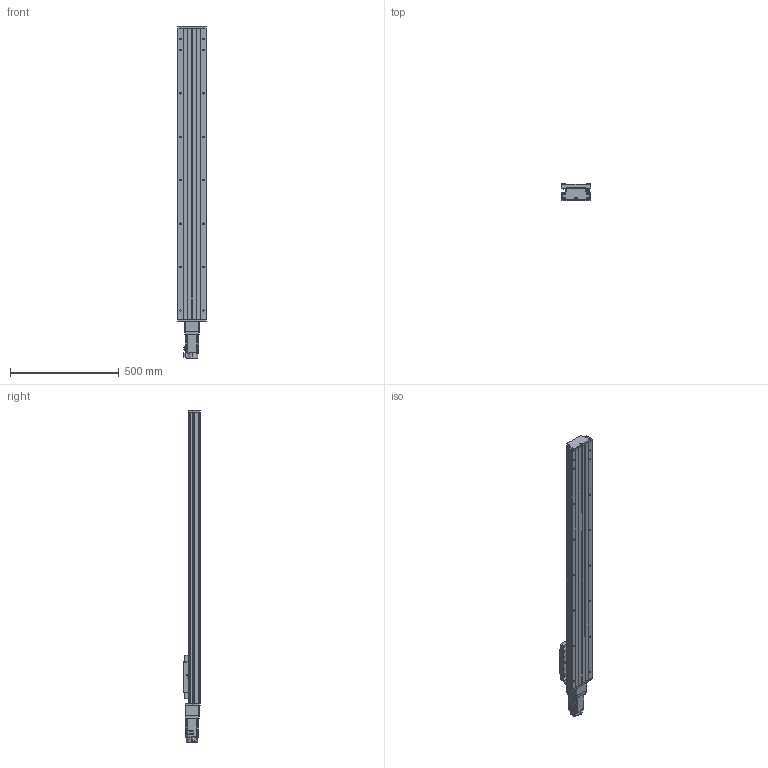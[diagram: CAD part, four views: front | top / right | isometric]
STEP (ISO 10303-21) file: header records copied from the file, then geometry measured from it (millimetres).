
FILE_DESCRIPTION (( 'STEP AP203' ), '1' );
FILE_NAME ('GTH14-1100-BC-M40-C4.step', '2023-06-30T08:32:12', ( '微软用户' ), ( '微软中国' ), 'SwSTEP 2.0', 'SolidWorks 2020', '' );
FILE_SCHEMA (( 'CONFIG_CONTROL_DESIGN' ));
Length unit declared in the file: millimetre
Products named in the file (20): GBT 70.2-M3¡Á5_M3¡Á6; す晦芛蹟隊 M3℅5; GTH14-001_1100; CTHA60-017; CTHA86-006-1_M40; GTH14-002_GTH14-002; EE_SX911P_R; CTHA86-013; GTH14-004; CTHA60-016; CTHA86-027-1; GTH14-005; GBT 70.1-M3℅5; HG-KN43J-S100; GB1155-6X6; GBT77-2000 M3×3; GBT 70.3-M3℅8; GBT70.1 M5℅16; GTH14-031; GTH14-1100-BC-M40-C4
Assembly tree (57 placements, depth 2):
  GTH14-1100-BC-M40-C4
    GTH14-001_1100
    GTH14-002_GTH14-002
    GTH14-004
    GTH14-005
    GB1155-6X6  x2
    GBT70.1 M5℅16  x10
    GBT 70.2-M3¡Á5_M3¡Á6  x8
    CTHA60-017  x3
    EE_SX911P_R  x3
    CTHA60-016  x2
    GBT 70.1-M3℅5  x6
    GBT77-2000 M3×3  x6
    GTH14-031
    す晦芛蹟隊 M3℅5  x6
    CTHA86-006-1_M40
    CTHA86-013
    CTHA86-027-1
    HG-KN43J-S100
    GBT 70.3-M3℅8  x2
Bounding box: 135 x 78 x 1528.7 mm (x, y, z)
Volume: 7528030.1 mm3; surface area: 1151701.6 mm2
Topology: 60 solids, 60 shells, 2444 faces, 5829 edges, 3602 vertices
Faces by surface type: plane 1308, cylinder 672, cone 304, torus 120, sphere 20, bspline 20
Entity records: 45344 total; most frequent: CARTESIAN_POINT 10047, DIRECTION 6696, ORIENTED_EDGE 6542, EDGE_CURVE 3271, AXIS2_PLACEMENT_3D 2295, VECTOR 2106, LINE 2106, VERTEX_POINT 2070
